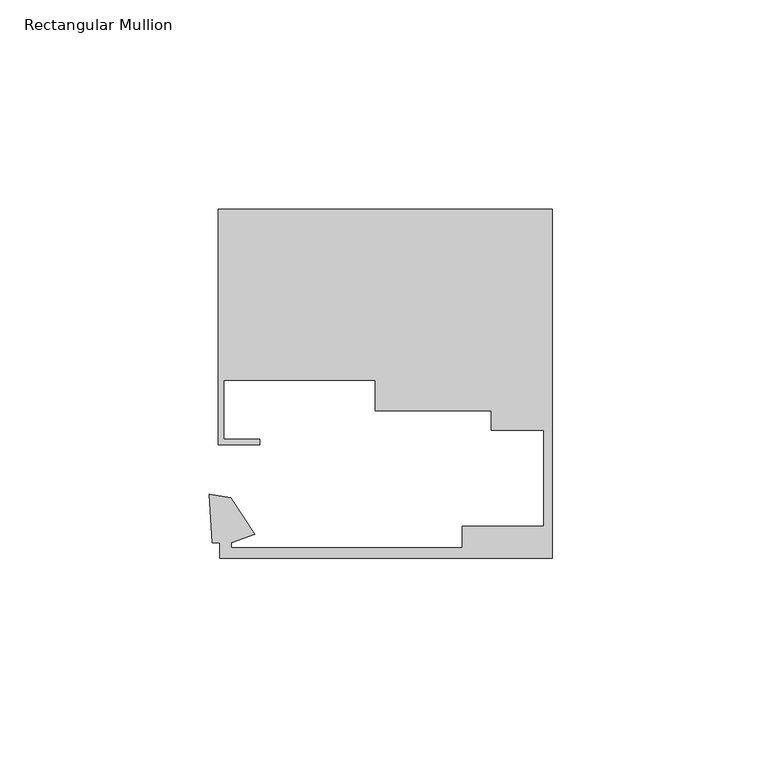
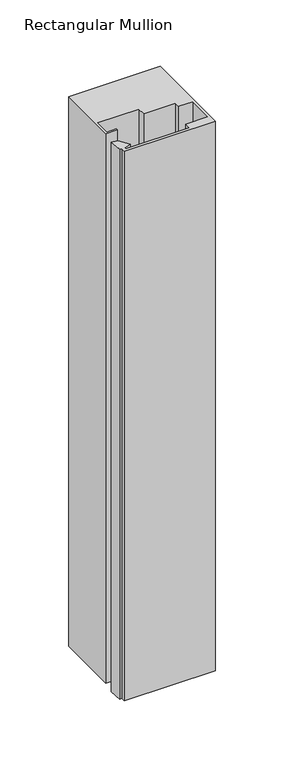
"""IFC4 building model written with IfcOpenShell, lengths in millimetres: member geometry, Rectangular Mullion : Danpal_NM_End-Mullion_B1."""

from ifc_helpers import new_model, si_unit, frame, origin, place, context, project, spatial, polyline, outline, extrude, source, transform, mapped, element, save


def rectangular_mullion_e8e8685e(model_context):
    return source(origin(), model_context, "Body", "SweptSolid", [
        extrude(outline(polyline([(0.0, 68.4940825), (0.0, -14.8051514), (-79.3474874, -14.8003189), (-79.3474874, -11.1413992), (-81.1597999, -11.1413992), (-81.8779002, 0.484903), (-76.7540801, -0.319325), (-71.0577359, -9.0180613), (-76.6478166, -11.1168176), (-76.6478166, -12.3181946), (-21.5478166, -12.3181946), (-21.5478166, -7.1181946), (-2.0000001, -7.1181946), (-2.0000001, 15.7940824), (-14.6000003, 15.7940824), (-14.6000003, 20.3492381), (-42.2684147, 20.3894746), (-42.2578709, 27.6399085), (-78.4582695, 27.6399085), (-78.4582695, 13.5916994), (-69.8282946, 13.5916994), (-69.8282946, 12.280939), (-79.7784606, 12.280939), (-79.7784606, 68.4940825), (0.0, 68.4940825)])), frame((0.0, 0.0, -506.3852426), z_axis=(0.0, 0.0, 1.0), x_axis=(1.0, 0.0, 0.0)), (0.0, 0.0, 1.0), 506.3852426),
    ])


if __name__ == "__main__":
    model = new_model("IFC4")
    model_context = context("Model", 3, world=origin())
    ifc_project = project(units=[si_unit("LENGTHUNIT", "METRE", prefix="MILLI")], contexts=[model_context])
    site = spatial("IfcSite", under=ifc_project)
    building = spatial("IfcBuilding", under=site)
    placement = place(None, origin())
    rectangular_mullion_shape = rectangular_mullion_e8e8685e(model_context)
    element("IfcMember", 1, ObjectType="Rectangular Mullion : Danpal_NM_End-Mullion_B1", at=placement, inside=building, context=model_context, shape_type="MappedRepresentation", body=[
        mapped(rectangular_mullion_shape, transform((0.0, 0.0, 0.0), x_axis=(1.0, 0.0, 0.0), y_axis=(0.0, 1.0, 0.0), z_axis=(0.0, 0.0, 1.0))),
    ])
    save(model, "model.ifc")
